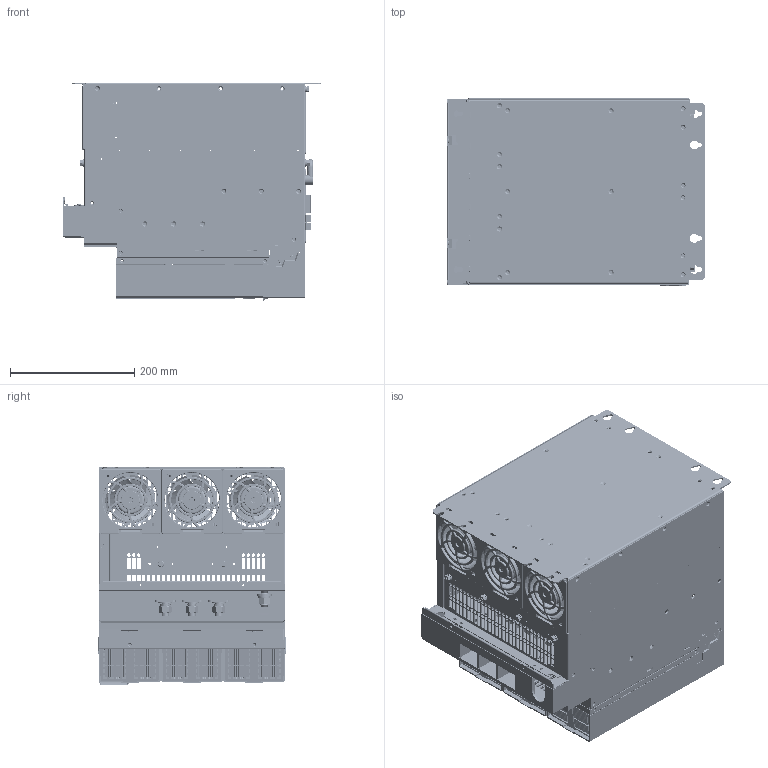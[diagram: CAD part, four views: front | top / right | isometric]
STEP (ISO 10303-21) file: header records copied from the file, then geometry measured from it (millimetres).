
FILE_DESCRIPTION((''),'2;1');
FILE_NAME('GD600A-51-160-4_ASM','2025-02-08T15:34:28',('Administrator'),(''),'CREO PARAMETRIC BY PTC INC, 2019080','CREO PARAMETRIC BY PTC INC, 2019080','');
FILE_SCHEMA(('CONFIG_CONTROL_DESIGN','SHAPE_APPEARANCE_LAYERS_GROUPS'));
Products named in the file (95): 80340382; S-M3-ZC; 80340382_ASM; 80340382SY; 80340382SY_ASM; 86052905; TPR-3-8-SL; 86052905_ASM; 803812476; S-M6-ZC; S-M4-ZC; 803812476_ASM; 803812477; TPR-4-12-SL; 803812477_ASM; 803812480; GB12617_4_4X8_SL; 61063278_ASM; 80311051; Z-M4-ZC; 80311051_ASM; 61210894_ASM; 803812485; S-M5-ZC; 803812485_ASM; 80385330; FH-M12-30-ZC; 80385330_ASM; 61063279_ASM; WG-02-0004; 41060297_ASM; 86052897; 86052897_ASM; 86052897SY; 86052897SY_ASM; 86051216; 41060300_ASM; AO-132_104; F6A-5_08-02P-1-5-T04_ASM; FAN_92_38_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
Assembly tree (252 placements, depth 7):
  GD600A-51-160-4_ASM
    41060300_ASM
      41060297_ASM
        61063278_ASM
          80340382SY_ASM
            80340382_ASM
              80340382
              S-M3-ZC  x4
            80340382SY
          86052905_ASM
            86052905
            TPR-3-8-SL
            S-M3-ZC  x2
          803812476_ASM
            803812476
            S-M6-ZC  x8
            S-M4-ZC  x6
          803812477_ASM
            803812477
            TPR-4-12-SL  x6
          803812480
          GB12617_4_4X8_SL  x39
        61210894_ASM
          80311051_ASM
            80311051
            Z-M4-ZC  x8
          GB12617_4_4X8_SL
        61063279_ASM
          803812485_ASM
            803812485
            S-M5-ZC  x4
            S-M3-ZC  x8
            S-M4-ZC  x2
          80385330_ASM
            80385330
            FH-M12-30-ZC
          GB12617_4_4X8_SL  x6
        WG-02-0004
      86052897SY_ASM
        86052897_ASM
          86052897
          S-M4-ZC
          S-M3-ZC  x4
        86052897SY
      86051216  x2
    PD800-51-132-ES_ASM
      AO-132_104
      F6A-5_08-02P-1-5-T04_ASM  x2
      FAN_92_38_  x3
      AL-4
      E-DIN0102-5_08MM-TM  x2
      100P_ASM
        17003-02676_ASM
          E-LEDR12-100-2-A
          E-LEDR10-100-2
          E-SR0603  x8
          E-SC0603  x4
          E-SC1206  x2
          E-SL1210
          E-SOT23
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Bounding box: 414 x 302 x 351 mm (x, y, z)
Volume: 2803265.1 mm3; surface area: 2660148.8 mm2
Topology: 231 solids, 327 shells, 24623 faces, 65728 edges, 42512 vertices
Faces by surface type: plane 16479, cylinder 4783, cone 1790, torus 801, bspline 467, sphere 189, extrusion 66, revolution 48
Entity records: 572641 total; most frequent: CARTESIAN_POINT 107791, ORIENTED_EDGE 81129, DIRECTION 77466, EDGE_CURVE 40566, VECTOR 30672, LINE 30634, VERTEX_POINT 26234, AXIS2_PLACEMENT_3D 23389
